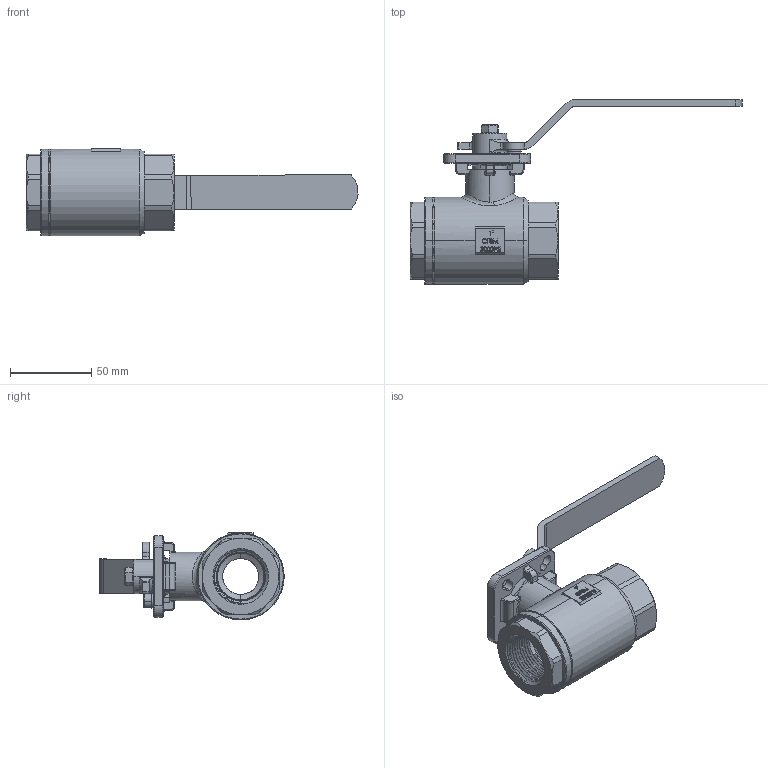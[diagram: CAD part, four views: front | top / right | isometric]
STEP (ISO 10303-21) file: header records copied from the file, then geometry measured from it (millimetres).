
FILE_DESCRIPTION (( 'STEP AP203' ), '1' );
FILE_NAME ('BV-21E有把手.STEP', '2019-05-22T02:46:00', ( 'bx' ), ( '' ), 'SwSTEP 2.0', 'SolidWorks 2014', '' );
FILE_SCHEMA (( 'CONFIG_CONTROL_DESIGN' ));
Length unit declared in the file: millimetre
Products named in the file (1): BV-21E有把手
Bounding box: 203.85 x 113.23 x 54 mm (x, y, z)
Volume: 183774.8 mm3; surface area: 84468.7 mm2
Topology: 21 solids, 21 shells, 865 faces, 2196 edges, 1396 vertices
Faces by surface type: cylinder 284, plane 269, cone 138, bspline 112, torus 57, sphere 5
Entity records: 42678 total; most frequent: CARTESIAN_POINT 22835, ORIENTED_EDGE 4380, DIRECTION 3765, EDGE_CURVE 2190, AXIS2_PLACEMENT_3D 1418, VERTEX_POINT 1394, EDGE_LOOP 950, VECTOR 929
